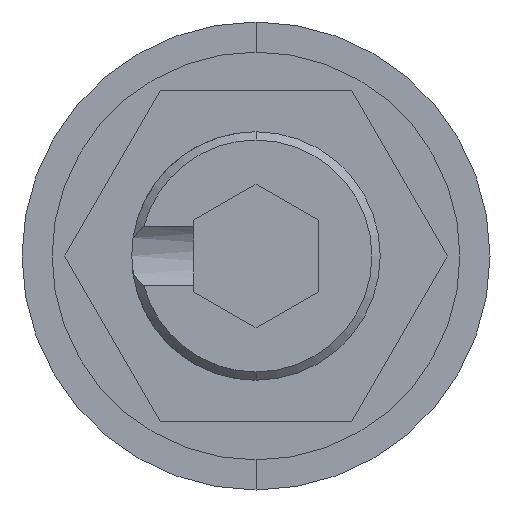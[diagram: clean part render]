
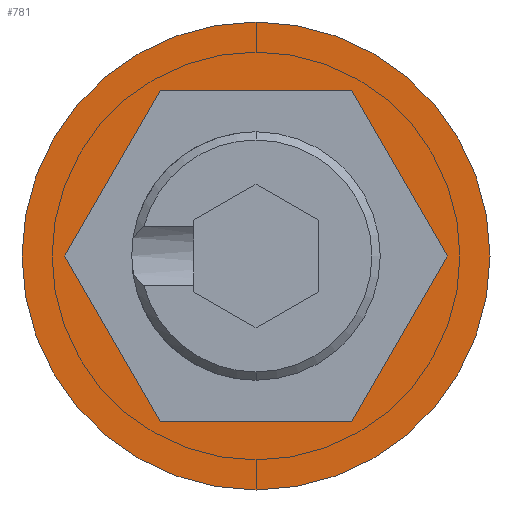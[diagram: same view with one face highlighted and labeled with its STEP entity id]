
A CAD part, front view. The second image highlights one B-rep face of the part: STEP entity #781.
In plain terms, the highlighted planar face has unit normal (0, -1, 0).
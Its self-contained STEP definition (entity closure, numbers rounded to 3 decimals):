
#92 = VECTOR ( 'NONE', #850, 1000. ) ;
#99 = PLANE ( 'NONE',  #1301 ) ;
#105 = LINE ( 'NONE', #846, #92 ) ;
#141 = DIRECTION ( 'NONE',  ( 0., -1., 0. ) ) ;
#182 = DIRECTION ( 'NONE',  ( -1., 0., 0. ) ) ;
#197 = CARTESIAN_POINT ( 'NONE',  ( 2.309, 0., 4. ) ) ;
#219 = FACE_BOUND ( 'NONE', #963, .T. ) ;
#221 = DIRECTION ( 'NONE',  ( 1., 0., 0. ) ) ;
#282 = AXIS2_PLACEMENT_3D ( 'NONE', #1044, #2003, #1061 ) ;
#318 = CARTESIAN_POINT ( 'NONE',  ( -4.619, 0., 0. ) ) ;
#339 = FACE_OUTER_BOUND ( 'NONE', #1049, .T. ) ;
#374 = CARTESIAN_POINT ( 'NONE',  ( -2.309, 0., -4. ) ) ;
#376 = DIRECTION ( 'NONE',  ( 0., 0., -1. ) ) ;
#381 = VERTEX_POINT ( 'NONE', #745 ) ;
#394 = VECTOR ( 'NONE', #182, 1000. ) ;
#396 = ORIENTED_EDGE ( 'NONE', *, *, #1235, .T. ) ;
#402 = LINE ( 'NONE', #197, #394 ) ;
#417 = VERTEX_POINT ( 'NONE', #828 ) ;
#422 = EDGE_CURVE ( 'NONE', #1039, #643, #105, .T. ) ;
#511 = AXIS2_PLACEMENT_3D ( 'NONE', #583, #733, #662 ) ;
#561 = CARTESIAN_POINT ( 'NONE',  ( -2.309, 0., 4. ) ) ;
#575 = CIRCLE ( 'NONE', #282, 5.65 ) ;
#583 = CARTESIAN_POINT ( 'NONE',  ( 0., 0., 0. ) ) ;
#607 = VECTOR ( 'NONE', #1219, 1000. ) ;
#643 = VERTEX_POINT ( 'NONE', #1165 ) ;
#662 = DIRECTION ( 'NONE',  ( 0., 0., -1. ) ) ;
#664 = LINE ( 'NONE', #1203, #607 ) ;
#671 = ORIENTED_EDGE ( 'NONE', *, *, #1176, .F. ) ;
#685 = ORIENTED_EDGE ( 'NONE', *, *, #1250, .F. ) ;
#707 = DIRECTION ( 'NONE',  ( 0.5, 0., -0.866 ) ) ;
#710 = ORIENTED_EDGE ( 'NONE', *, *, #1319, .F. ) ;
#715 = ORIENTED_EDGE ( 'NONE', *, *, #1796, .F. ) ;
#723 = ORIENTED_EDGE ( 'NONE', *, *, #1570, .F. ) ;
#725 = ORIENTED_EDGE ( 'NONE', *, *, #422, .F. ) ;
#733 = DIRECTION ( 'NONE',  ( 0., -1., 0. ) ) ;
#745 = CARTESIAN_POINT ( 'NONE',  ( -4.619, 0., 0. ) ) ;
#776 = ORIENTED_EDGE ( 'NONE', *, *, #1611, .T. ) ;
#781 = ADVANCED_FACE ( 'NONE', ( #219, #339 ), #99, .T. ) ;
#788 = VERTEX_POINT ( 'NONE', #1604 ) ;
#828 = CARTESIAN_POINT ( 'NONE',  ( -2.309, 0., 4. ) ) ;
#846 = CARTESIAN_POINT ( 'NONE',  ( 2.309, 0., -4. ) ) ;
#850 = DIRECTION ( 'NONE',  ( 0.5, 0., 0.866 ) ) ;
#883 = VERTEX_POINT ( 'NONE', #1743 ) ;
#886 = VERTEX_POINT ( 'NONE', #1747 ) ;
#920 = VECTOR ( 'NONE', #999, 1000. ) ;
#961 = LINE ( 'NONE', #561, #920 ) ;
#963 = EDGE_LOOP ( 'NONE', ( #671, #685, #710, #715, #723, #725 ) ) ;
#999 = DIRECTION ( 'NONE',  ( -0.5, 0., -0.866 ) ) ;
#1031 = VECTOR ( 'NONE', #707, 1000. ) ;
#1039 = VERTEX_POINT ( 'NONE', #2078 ) ;
#1044 = CARTESIAN_POINT ( 'NONE',  ( 0., 0., 0. ) ) ;
#1049 = EDGE_LOOP ( 'NONE', ( #396, #776 ) ) ;
#1050 = LINE ( 'NONE', #318, #1031 ) ;
#1061 = DIRECTION ( 'NONE',  ( 0., 0., -1. ) ) ;
#1074 = CIRCLE ( 'NONE', #511, 5.65 ) ;
#1106 = VECTOR ( 'NONE', #221, 1000. ) ;
#1154 = LINE ( 'NONE', #374, #1106 ) ;
#1165 = CARTESIAN_POINT ( 'NONE',  ( 4.619, 0., 0. ) ) ;
#1176 = EDGE_CURVE ( 'NONE', #788, #1039, #1154, .T. ) ;
#1203 = CARTESIAN_POINT ( 'NONE',  ( 4.619, 0., 0. ) ) ;
#1219 = DIRECTION ( 'NONE',  ( -0.5, 0., 0.866 ) ) ;
#1235 = EDGE_CURVE ( 'NONE', #883, #886, #1074, .T. ) ;
#1250 = EDGE_CURVE ( 'NONE', #381, #788, #1050, .T. ) ;
#1301 = AXIS2_PLACEMENT_3D ( 'NONE', #1624, #141, #376 ) ;
#1319 = EDGE_CURVE ( 'NONE', #417, #381, #961, .T. ) ;
#1346 = VERTEX_POINT ( 'NONE', #2024 ) ;
#1570 = EDGE_CURVE ( 'NONE', #643, #1346, #664, .T. ) ;
#1604 = CARTESIAN_POINT ( 'NONE',  ( -2.309, 0., -4. ) ) ;
#1611 = EDGE_CURVE ( 'NONE', #886, #883, #575, .T. ) ;
#1624 = CARTESIAN_POINT ( 'NONE',  ( 0., 0., 0. ) ) ;
#1743 = CARTESIAN_POINT ( 'NONE',  ( 0., 0., -5.65 ) ) ;
#1747 = CARTESIAN_POINT ( 'NONE',  ( 0., 0., 5.65 ) ) ;
#1796 = EDGE_CURVE ( 'NONE', #1346, #417, #402, .T. ) ;
#2003 = DIRECTION ( 'NONE',  ( 0., -1., 0. ) ) ;
#2024 = CARTESIAN_POINT ( 'NONE',  ( 2.309, 0., 4. ) ) ;
#2078 = CARTESIAN_POINT ( 'NONE',  ( 2.309, 0., -4. ) ) ;
